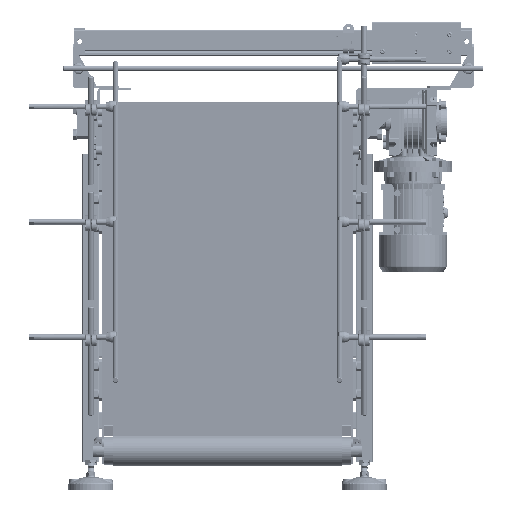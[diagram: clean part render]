
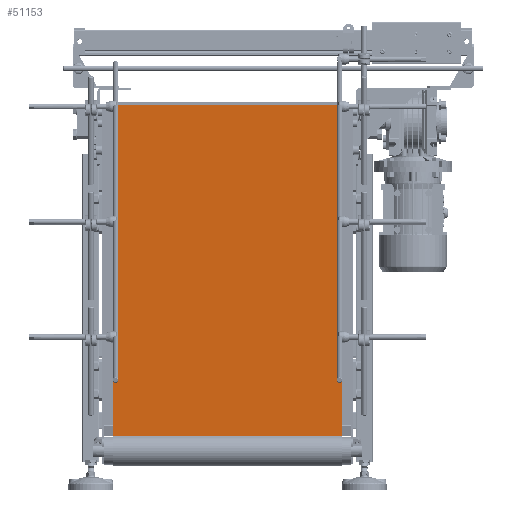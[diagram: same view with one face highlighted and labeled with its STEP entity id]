
A CAD part, top view. The second image highlights one B-rep face of the part: STEP entity #51153.
In plain terms, the highlighted planar face has unit normal (0, 0.966, 0.259).
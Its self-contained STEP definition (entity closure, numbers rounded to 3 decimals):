
#35128=PLANE('',#310728);
#51153=ADVANCED_FACE('',(#71349),#35128,.T.);
#71349=FACE_OUTER_BOUND('',#88593,.T.);
#88593=EDGE_LOOP('',(#189120,#189121,#189122,#189123));
#107182=LINE('',#516070,#125372);
#107189=LINE('',#516099,#125379);
#107190=LINE('',#516101,#125380);
#107191=LINE('',#516103,#125381);
#125372=VECTOR('',#378623,1.);
#125379=VECTOR('',#378650,1.);
#125380=VECTOR('',#378651,1.);
#125381=VECTOR('',#378652,1.);
#189120=ORIENTED_EDGE('',*,*,#262411,.T.);
#189121=ORIENTED_EDGE('',*,*,#262424,.T.);
#189122=ORIENTED_EDGE('',*,*,#262425,.T.);
#189123=ORIENTED_EDGE('',*,*,#262426,.T.);
#226790=VERTEX_POINT('',#516064);
#226793=VERTEX_POINT('',#516069);
#226806=VERTEX_POINT('',#516100);
#226807=VERTEX_POINT('',#516102);
#262411=EDGE_CURVE('',#226790,#226793,#107182,.T.);
#262424=EDGE_CURVE('',#226793,#226806,#107189,.T.);
#262425=EDGE_CURVE('',#226806,#226807,#107190,.T.);
#262426=EDGE_CURVE('',#226807,#226790,#107191,.T.);
#310728=AXIS2_PLACEMENT_3D('',#516104,#378653,#378654);
#378623=DIRECTION('',(1.,0.,0.));
#378650=DIRECTION('',(0.,0.259,-0.966));
#378651=DIRECTION('',(-1.,0.,0.));
#378652=DIRECTION('',(0.,-0.259,0.966));
#378653=DIRECTION('',(0.,0.966,0.259));
#378654=DIRECTION('',(0.,-0.259,0.966));
#516064=CARTESIAN_POINT('',(-205.,-595.199,3036.763));
#516069=CARTESIAN_POINT('',(205.,-595.199,3036.763));
#516070=CARTESIAN_POINT('',(205.,-595.199,3036.763));
#516099=CARTESIAN_POINT('',(205.,-1.45,820.859));
#516100=CARTESIAN_POINT('',(205.,-1.45,820.859));
#516101=CARTESIAN_POINT('',(205.,-1.45,820.859));
#516102=CARTESIAN_POINT('',(-205.,-1.45,820.859));
#516103=CARTESIAN_POINT('',(-205.,-1.45,820.859));
#516104=CARTESIAN_POINT('',(205.,-1.45,820.859));
